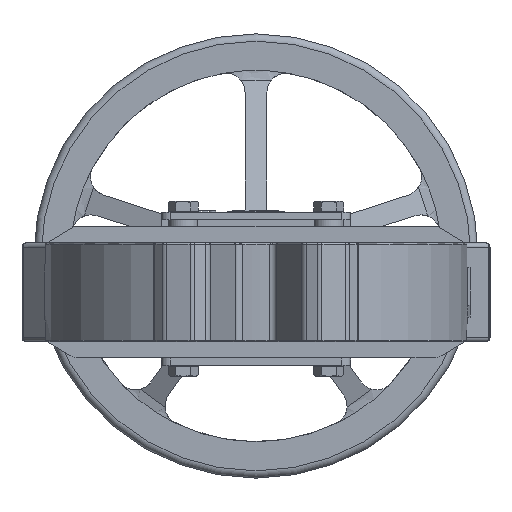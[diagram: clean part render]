
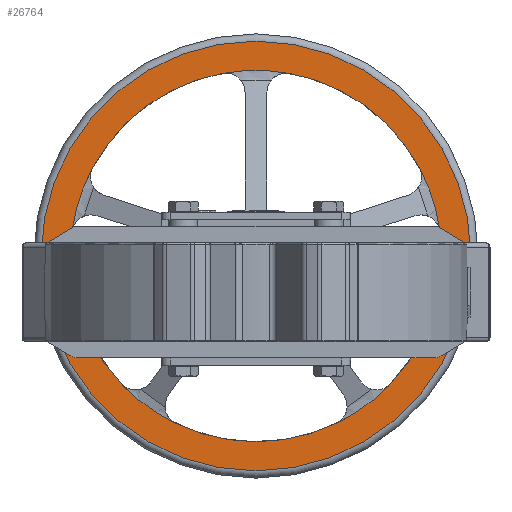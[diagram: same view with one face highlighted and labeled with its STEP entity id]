
A CAD part, front view. The second image highlights one B-rep face of the part: STEP entity #26764.
In plain terms, the highlighted planar face has unit normal (0, -1, 0).
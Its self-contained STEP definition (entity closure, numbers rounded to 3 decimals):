
#22377=CARTESIAN_POINT('',(-126.399,668.,41.721));
#22378=VERTEX_POINT('',#22377);
#23025=CARTESIAN_POINT('',(-54.962,668.,-90.045));
#23026=VERTEX_POINT('',#23025);
#23675=CARTESIAN_POINT('',(92.43,668.,-62.823));
#23676=VERTEX_POINT('',#23675);
#24323=CARTESIAN_POINT('',(112.087,668.,85.768));
#24324=VERTEX_POINT('',#24323);
#24799=CARTESIAN_POINT('',(-112.087,668.,85.768));
#24800=VERTEX_POINT('',#24799);
#24820=CARTESIAN_POINT('',(0.,668.,25.));
#24821=DIRECTION('',(0.0,1.0,0.0));
#24822=DIRECTION('',(1.0,0.0,0.0));
#24823=AXIS2_PLACEMENT_3D('',#24820,#24821,#24822);
#24824=CIRCLE('',#24823,127.5);
#24825=EDGE_CURVE('',#22378,#24800,#24824,.T.);
#24980=CARTESIAN_POINT('',(-92.43,668.,-62.823));
#24981=VERTEX_POINT('',#24980);
#25001=CARTESIAN_POINT('',(0.,668.,25.));
#25002=DIRECTION('',(0.0,1.0,0.0));
#25003=DIRECTION('',(1.0,0.0,0.0));
#25004=AXIS2_PLACEMENT_3D('',#25001,#25002,#25003);
#25005=CIRCLE('',#25004,127.5);
#25006=EDGE_CURVE('',#23026,#24981,#25005,.T.);
#25158=CARTESIAN_POINT('',(54.962,668.,-90.045));
#25159=VERTEX_POINT('',#25158);
#25179=CARTESIAN_POINT('',(0.,668.,25.));
#25180=DIRECTION('',(0.0,1.0,0.0));
#25181=DIRECTION('',(1.0,0.0,0.0));
#25182=AXIS2_PLACEMENT_3D('',#25179,#25180,#25181);
#25183=CIRCLE('',#25182,127.5);
#25184=EDGE_CURVE('',#23676,#25159,#25183,.T.);
#25339=CARTESIAN_POINT('',(126.399,668.,41.721));
#25340=VERTEX_POINT('',#25339);
#25360=CARTESIAN_POINT('',(0.,668.,25.));
#25361=DIRECTION('',(0.0,1.0,0.0));
#25362=DIRECTION('',(1.0,0.0,0.0));
#25363=AXIS2_PLACEMENT_3D('',#25360,#25361,#25362);
#25364=CIRCLE('',#25363,127.5);
#25365=EDGE_CURVE('',#24324,#25340,#25364,.T.);
#25387=CARTESIAN_POINT('',(0.,668.,25.));
#25388=DIRECTION('',(0.0,1.0,0.0));
#25389=DIRECTION('',(1.0,0.0,0.0));
#25390=AXIS2_PLACEMENT_3D('',#25387,#25388,#25389);
#25391=CIRCLE('',#25390,127.5);
#25392=EDGE_CURVE('',#24981,#22378,#25391,.T.);
#25397=CARTESIAN_POINT('',(0.,668.,25.));
#25398=DIRECTION('',(0.0,1.0,0.0));
#25399=DIRECTION('',(1.0,0.0,0.0));
#25400=AXIS2_PLACEMENT_3D('',#25397,#25398,#25399);
#25401=CIRCLE('',#25400,127.5);
#25402=EDGE_CURVE('',#25159,#23026,#25401,.T.);
#25407=CARTESIAN_POINT('',(0.,668.,25.));
#25408=DIRECTION('',(0.0,1.0,0.0));
#25409=DIRECTION('',(1.0,0.0,0.0));
#25410=AXIS2_PLACEMENT_3D('',#25407,#25408,#25409);
#25411=CIRCLE('',#25410,127.5);
#25412=EDGE_CURVE('',#25340,#23676,#25411,.T.);
#25422=CARTESIAN_POINT('',(23.156,668.,150.38));
#25423=VERTEX_POINT('',#25422);
#25424=CARTESIAN_POINT('',(0.,668.,25.));
#25425=DIRECTION('',(0.0,1.0,0.0));
#25426=DIRECTION('',(1.0,0.0,0.0));
#25427=AXIS2_PLACEMENT_3D('',#25424,#25425,#25426);
#25428=CIRCLE('',#25427,127.5);
#25429=EDGE_CURVE('',#25423,#24324,#25428,.T.);
#25448=CARTESIAN_POINT('',(-23.156,668.,150.38));
#25449=VERTEX_POINT('',#25448);
#25456=CARTESIAN_POINT('',(0.,668.,25.));
#25457=DIRECTION('',(0.0,1.0,0.0));
#25458=DIRECTION('',(1.0,0.0,0.0));
#25459=AXIS2_PLACEMENT_3D('',#25456,#25457,#25458);
#25460=CIRCLE('',#25459,127.5);
#25461=EDGE_CURVE('',#24800,#25449,#25460,.T.);
#26706=CARTESIAN_POINT('',(-147.5,668.,25.));
#26707=VERTEX_POINT('',#26706);
#26708=CARTESIAN_POINT('',(0.,668.,25.));
#26709=DIRECTION('',(0.0,1.0,0.0));
#26710=DIRECTION('',(1.0,0.0,0.0));
#26711=AXIS2_PLACEMENT_3D('',#26708,#26709,#26710);
#26712=CIRCLE('',#26711,147.5);
#26713=EDGE_CURVE('',#26707,#26707,#26712,.T.);
#26738=CARTESIAN_POINT('',(0.,668.,25.));
#26739=DIRECTION('',(0.0,1.0,0.0));
#26740=DIRECTION('',(-1.0,0.0,0.0));
#26741=AXIS2_PLACEMENT_3D('',#26738,#26739,#26740);
#26742=PLANE('',#26741);
#26743=ORIENTED_EDGE('',*,*,#26713,.F.);
#26744=EDGE_LOOP('',(#26743));
#26745=FACE_OUTER_BOUND('',#26744,.T.);
#26746=ORIENTED_EDGE('',*,*,#25429,.T.);
#26747=ORIENTED_EDGE('',*,*,#25365,.T.);
#26748=ORIENTED_EDGE('',*,*,#25412,.T.);
#26749=ORIENTED_EDGE('',*,*,#25184,.T.);
#26750=ORIENTED_EDGE('',*,*,#25402,.T.);
#26751=ORIENTED_EDGE('',*,*,#25006,.T.);
#26752=ORIENTED_EDGE('',*,*,#25392,.T.);
#26753=ORIENTED_EDGE('',*,*,#24825,.T.);
#26754=ORIENTED_EDGE('',*,*,#25461,.T.);
#26755=CARTESIAN_POINT('',(0.,668.,25.));
#26756=DIRECTION('',(0.0,1.0,0.0));
#26757=DIRECTION('',(1.0,0.0,0.0));
#26758=AXIS2_PLACEMENT_3D('',#26755,#26756,#26757);
#26759=CIRCLE('',#26758,127.5);
#26760=EDGE_CURVE('',#25449,#25423,#26759,.T.);
#26761=ORIENTED_EDGE('',*,*,#26760,.T.);
#26762=EDGE_LOOP('',(#26746,#26747,#26748,#26749,#26750,#26751,#26752,#26753,#26754,#26761));
#26763=FACE_BOUND('',#26762,.T.);
#26764=ADVANCED_FACE('',(#26745,#26763),#26742,.F.);
